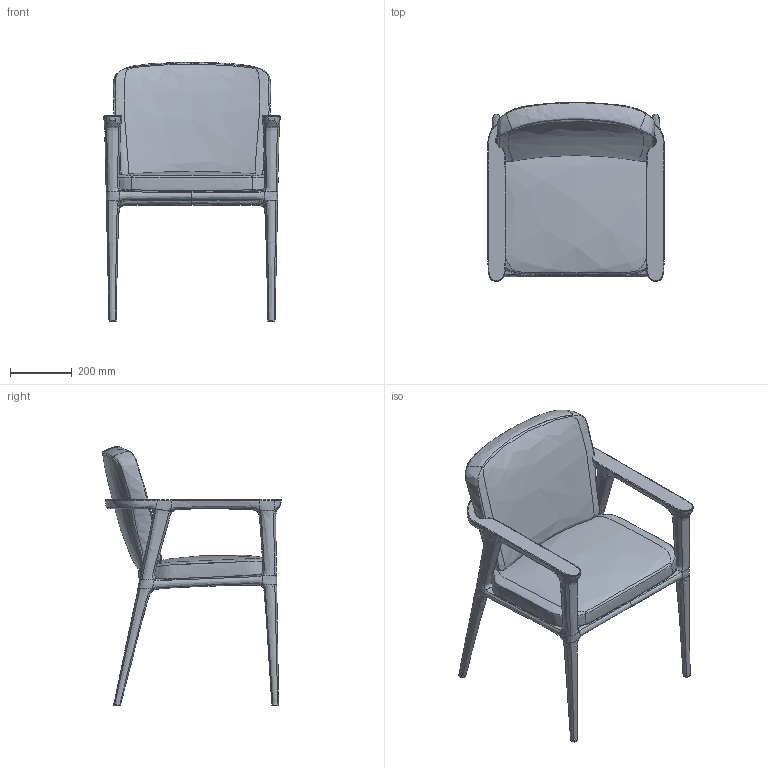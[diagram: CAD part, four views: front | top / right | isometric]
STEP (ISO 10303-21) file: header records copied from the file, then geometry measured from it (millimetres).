
FILE_DESCRIPTION (( 'STEP AP214' ), '1' );
FILE_NAME ('Zio Dining Chair.STEP', '2014-09-09T14:22:53', ( '' ), ( '' ), 'SwSTEP 2.0', 'SolidWorks 2014', '' );
FILE_SCHEMA (( 'AUTOMOTIVE_DESIGN' ));
Length unit declared in the file: millimetre
Products named in the file (1): Zio Dining Chair
Bounding box: 572.06 x 580.19 x 841.38 mm (x, y, z)
Volume: 38422900.8 mm3; surface area: 2144944.4 mm2
Topology: 4 solids, 4 shells, 227 faces, 925 edges, 690 vertices
Faces by surface type: bspline 216, plane 11
Entity records: 47149 total; most frequent: CARTESIAN_POINT 39415, ORIENTED_EDGE 1834, EDGE_CURVE 917, VERTEX_POINT 690, B_SPLINE_CURVE_WITH_KNOTS 667, UNCERTAINTY_MEASURE_WITH_UNIT 233, SURFACE_STYLE_USAGE 232, SURFACE_STYLE_FILL_AREA 232
